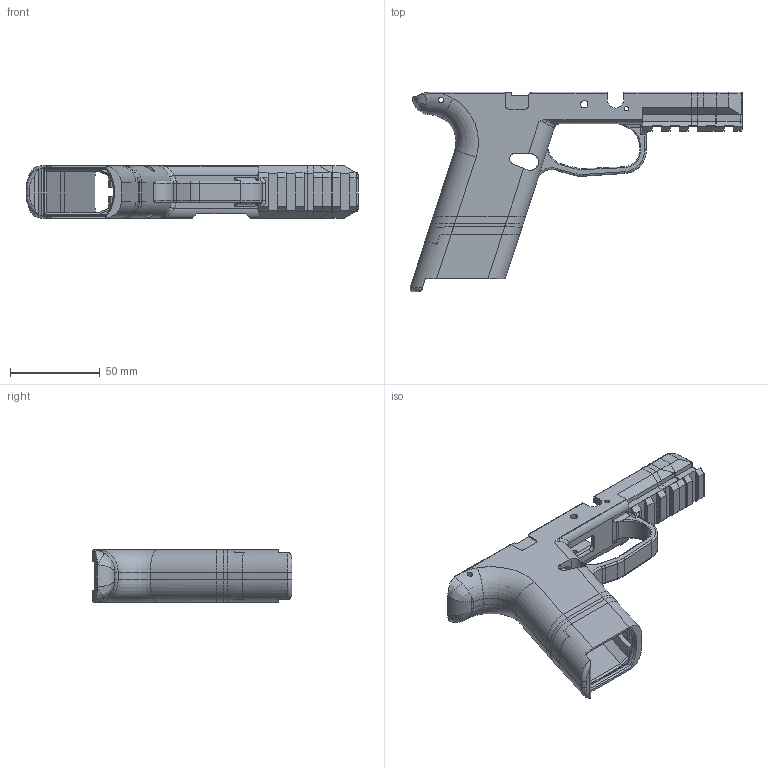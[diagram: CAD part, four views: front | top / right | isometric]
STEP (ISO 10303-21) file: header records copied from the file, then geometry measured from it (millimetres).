
FILE_DESCRIPTION(/* description */ (''),/* implementation_level */ '2;1');
FILE_NAME(/* name */ 'G:/Developer/Repos/TMS-FNS/STEP/FNS-940.step',/* time_stamp */ '2021-05-28T01:25:09-04:00',/* author */ (''),/* organization */ (''),/* preprocessor_version */ 'ST-DEVELOPER v18.1',/* originating_system */ 'Autodesk Translation Framework v10.6.0.1341',/* authorisation */ '');
FILE_SCHEMA (('AUTOMOTIVE_DESIGN { 1 0 10303 214 3 1 1 }'));
Length unit declared in the file: millimetre
Products named in the file (5): FNS-9/40; Main Frame; Compact Size Grip; Standard Size Grip; Standard Size Grip (Stopgap)
Assembly tree (4 placements, depth 2):
  FNS-9/40
    Main Frame
    Compact Size Grip
    Standard Size Grip
    Standard Size Grip (Stopgap)
Bounding box: 184.47 x 110.97 x 29 mm (x, y, z)
Volume: 93505.4 mm3; surface area: 54404.5 mm2
Topology: 7 solids, 7 shells, 553 faces, 1537 edges, 986 vertices
Faces by surface type: plane 343, cylinder 149, bspline 28, torus 27, cone 6
Full cylindrical faces by diameter (mm): 2.5 x2, 3 x2, 4.1 x2
Entity records: 19178 total; most frequent: CARTESIAN_POINT 4863, ORIENTED_EDGE 3070, DIRECTION 2848, EDGE_CURVE 1535, LINE 1066, VECTOR 1066, VERTEX_POINT 986, AXIS2_PLACEMENT_3D 891
